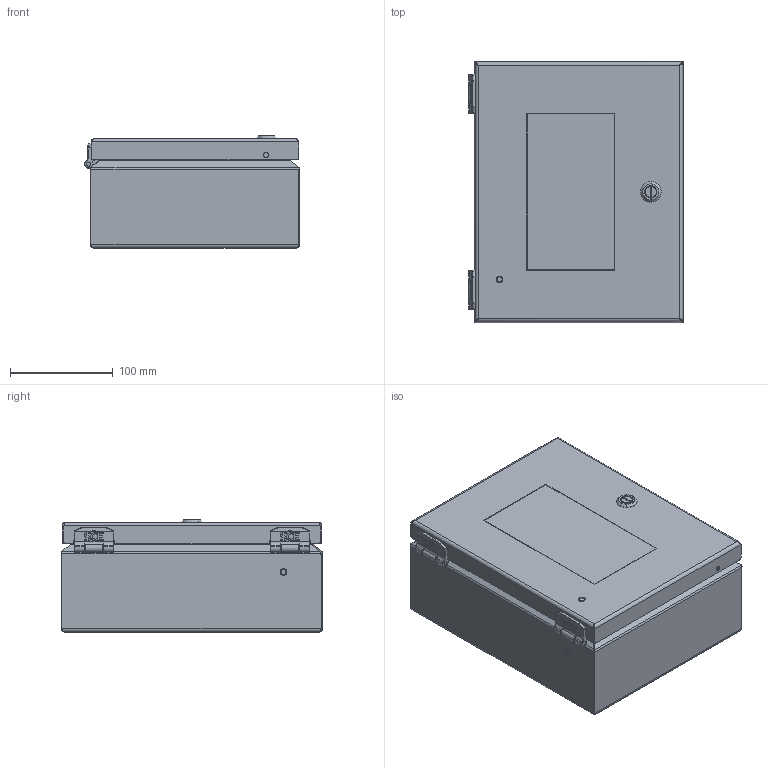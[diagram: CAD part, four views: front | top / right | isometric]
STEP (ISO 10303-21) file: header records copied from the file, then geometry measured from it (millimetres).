
FILE_DESCRIPTION((''),'2;1');
FILE_NAME('MODEL-058_ASM','2021-05-26T13:58:15',('johnh'),('SAGINAW CONTROL & ENGINEERING'),'CREO PARAMETRIC BY PTC INC, 2017260','CREO PARAMETRIC BY PTC INC, 2017260','');
FILE_SCHEMA(('AUTOMOTIVE_DESIGN { 1 0 10303 214 1 1 1 1 }'));
Length unit declared in the file: inch
Products named in the file (26): MODEL-058-BDY; MODEL-058-DR; 112643-BOX-LEAF; 112643-BOX-LEAF-STUD; 112643-BOX_ASM; 112643-DOOR-LEAF; 112643-DOOR-LEAF-STUD; 112643-DOOR_ASM; 112643-PIN; 112643_ASM; 113152; 100063; 112987_SHAFT; 112987_INSERT; 112984; 112987_SCREW; 112987_NUT; 112987_ASM; 100009; MODEL-058-LEX; MODEL-058-GSKT; 120706; CH-ELJ_SUBPANEL; 102479; CH-ELJ_SUBPANEL-SUBASSEMBLY_ASM; MODEL-058_ASM
Assembly tree (36 placements, depth 4):
  MODEL-058_ASM
    MODEL-058-BDY
    MODEL-058-DR
    112643_ASM  x2
      112643-BOX_ASM
        112643-BOX-LEAF
        112643-BOX-LEAF-STUD
      112643-DOOR_ASM
        112643-DOOR-LEAF
        112643-DOOR-LEAF-STUD
      112643-PIN
    113152  x4
    100063  x2
    112987_ASM
      112987_SHAFT
      112987_INSERT
      112984
      112987_SCREW
      112987_NUT
    100009  x4
    MODEL-058-LEX
    MODEL-058-GSKT
    120706
    CH-ELJ_SUBPANEL-SUBASSEMBLY_ASM
      CH-ELJ_SUBPANEL
      102479  x4
Bounding box: 208.8 x 254 x 109.11 mm (x, y, z)
Volume: 538641.6 mm3; surface area: 566022.6 mm2
Topology: 35 solids, 37 shells, 2975 faces, 7599 edges, 4660 vertices
Faces by surface type: plane 1021, cylinder 862, bspline 830, cone 126, torus 116, sphere 20
Entity records: 102134 total; most frequent: CARTESIAN_POINT 54679, ORIENTED_EDGE 7062, DIRECTION 6030, EDGE_CURVE 3531, PRESENTATION_STYLE_ASSIGNMENT 3140, STYLED_ITEM 3140, CURVE_STYLE 2882, AXIS2_PLACEMENT_3D 2221
